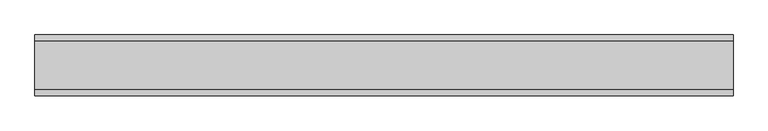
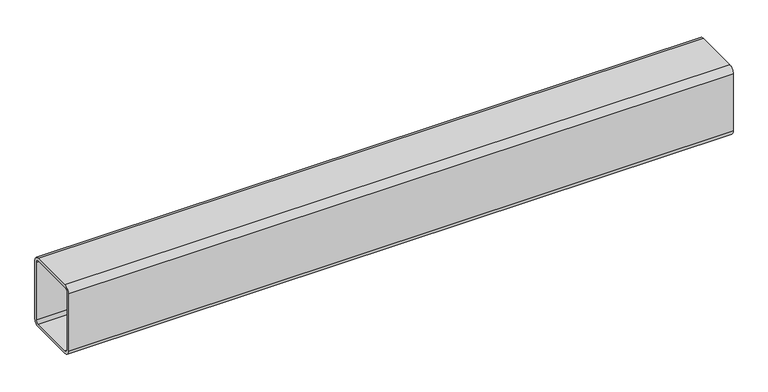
"""IFC4 building model written with IfcOpenShell, lengths in millimetres: beam geometry, Труба прямоугольного сечения (ТУ 67-2287-80) Балки : труба200x160x8."""

from ifc_helpers import new_model, si_unit, point, frame, frame_2d, origin, place, context, project, spatial, polyline, circle_curve, trimmed, segment, composite_curve, outline, extrude, source, transform, mapped, element, save


def beam_c6a33905(model_context):
    return source(origin(), model_context, "Body", "SweptSolid", [
        extrude(outline(composite_curve([segment(polyline([(-64.0, 100.0), (64.0, 100.0)]), True, "CONTINUOUS"), segment(trimmed(circle_curve(frame_2d((64.0, 84.0)), 16.0), [point((64.0, 100.0))], [point((80.0, 84.0))], False, "CARTESIAN"), True, "CONTINUOUS"), segment(polyline([(80.0, 84.0), (80.0, -84.0)]), True, "CONTINUOUS"), segment(trimmed(circle_curve(frame_2d((64.0, -84.0)), 16.0), [point((80.0, -84.0))], [point((64.0, -100.0))], False, "CARTESIAN"), True, "CONTINUOUS"), segment(polyline([(64.0, -100.0), (-64.0, -100.0)]), True, "CONTINUOUS"), segment(trimmed(circle_curve(frame_2d((-64.0, -84.0)), 16.0), [point((-64.0, -100.0))], [point((-80.0, -84.0))], False, "CARTESIAN"), True, "CONTINUOUS"), segment(polyline([(-80.0, -84.0), (-80.0, 84.0)]), True, "CONTINUOUS"), segment(trimmed(circle_curve(frame_2d((-64.0, 84.0)), 16.0), [point((-80.0, 84.0))], [point((-64.0, 100.0))], False, "CARTESIAN"), True, "CONTINUOUS")], self_intersect=False), holes=[composite_curve([segment(trimmed(circle_curve(frame_2d((-64.0, 84.0)), 8.0), [point((-64.0, 92.0))], [point((-72.0, 84.0))], True, "CARTESIAN"), True, "CONTINUOUS"), segment(polyline([(-72.0, 84.0), (-72.0, -84.0)]), True, "CONTINUOUS"), segment(trimmed(circle_curve(frame_2d((-64.0, -84.0)), 8.0), [point((-72.0, -84.0))], [point((-64.0, -92.0))], True, "CARTESIAN"), True, "CONTINUOUS"), segment(polyline([(-64.0, -92.0), (64.0, -92.0)]), True, "CONTINUOUS"), segment(trimmed(circle_curve(frame_2d((64.0, -84.0)), 8.0), [point((64.0, -92.0))], [point((72.0, -84.0))], True, "CARTESIAN"), True, "CONTINUOUS"), segment(polyline([(72.0, -84.0), (72.0, 84.0)]), True, "CONTINUOUS"), segment(trimmed(circle_curve(frame_2d((64.0, 84.0)), 8.0), [point((72.0, 84.0))], [point((64.0, 92.0))], True, "CARTESIAN"), True, "CONTINUOUS"), segment(polyline([(64.0, 92.0), (-64.0, 92.0)]), True, "CONTINUOUS")], self_intersect=False)]), frame((-959.5, 0.0, 0.0), z_axis=(1.0, 0.0, 0.0), x_axis=(0.0, 1.0, 0.0)), (0.0, 0.0, 1.0), 1839.0),
    ])


if __name__ == "__main__":
    model = new_model("IFC4")
    model_context = context("Model", 3, world=origin())
    ifc_project = project(units=[si_unit("LENGTHUNIT", "METRE", prefix="MILLI")], contexts=[model_context])
    site = spatial("IfcSite", under=ifc_project)
    building = spatial("IfcBuilding", under=site)
    placement = place(None, origin())
    beam_shape = beam_c6a33905(model_context)
    element("IfcBeam", 1, ObjectType="Труба прямоугольного сечения (ТУ 67-2287-80) Балки : труба200x160x8", at=placement, inside=building, context=model_context, shape_type="MappedRepresentation", body=[
        mapped(beam_shape, transform((0.0, 0.0, 0.0), x_axis=(1.0, 0.0, 0.0), y_axis=(0.0, 1.0, 0.0), z_axis=(0.0, 0.0, 1.0))),
    ])
    save(model, "model.ifc")
